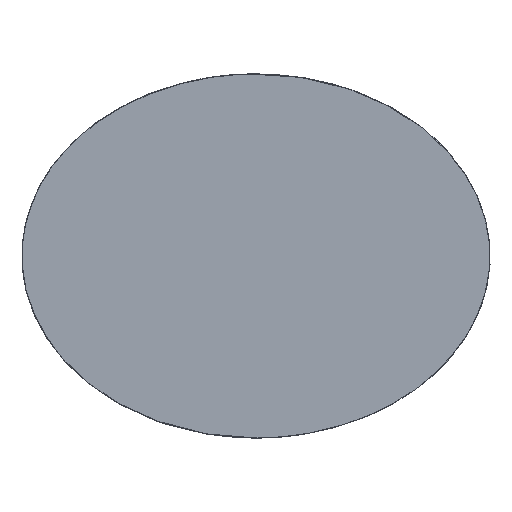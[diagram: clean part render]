
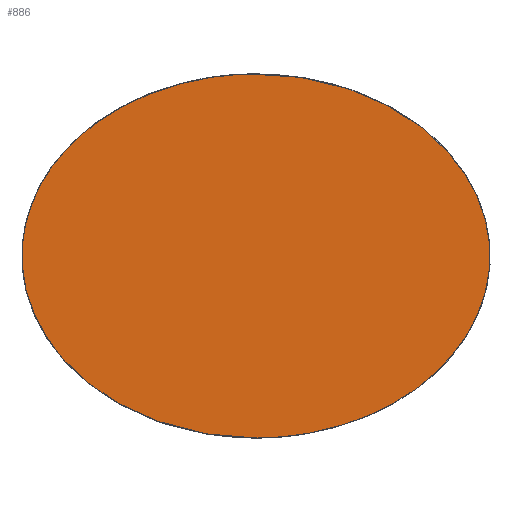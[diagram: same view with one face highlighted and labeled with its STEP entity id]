
A CAD part, top view. The second image highlights one B-rep face of the part: STEP entity #886.
In plain terms, the highlighted planar face has unit normal (0, 0, 1).
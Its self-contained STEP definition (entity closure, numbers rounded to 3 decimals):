
#460=B_SPLINE_CURVE_WITH_KNOTS('',3,(#15017,#15018,#15019,#15020,#15021,
#15022,#15023,#15024,#15025,#15026,#15027,#15028,#15029,#15030,#15031,#15032,
#15033,#15034,#15035,#15036,#15037,#15038,#15039,#15040,#15041,#15042,#15043,
#15044,#15045,#15046,#15047,#15048,#15049,#15050,#15051,#15052,#15053,#15054),
 .UNSPECIFIED.,.F.,.F.,(4,1,1,1,1,1,1,1,1,1,1,1,1,1,1,1,1,1,1,1,1,1,1,1,
1,1,1,1,1,1,1,1,1,1,1,4),(0.,15.624,106.727,216.917,
326.825,431.286,526.279,594.416,660.832,
730.051,792.153,867.122,931.923,991.158,
1038.235,1094.982,1147.777,1188.006,1233.734,
1279.66,1312.746,1370.729,1416.936,1473.062,
1533.536,1609.008,1674.048,1750.42,1832.557,
1920.74,2014.864,2096.825,2192.829,2287.212,
2397.218,2499.96),.UNSPECIFIED.);
#475=B_SPLINE_CURVE_WITH_KNOTS('',3,(#15346,#15347,#15348,#15349,#15350,
#15351,#15352,#15353,#15354,#15355,#15356,#15357,#15358,#15359,#15360,#15361,
#15362,#15363,#15364,#15365,#15366,#15367,#15368,#15369,#15370,#15371,#15372,
#15373,#15374,#15375,#15376,#15377,#15378,#15379,#15380,#15381,#15382),
 .UNSPECIFIED.,.F.,.F.,(4,1,1,1,1,1,1,1,1,1,1,1,1,1,1,1,1,1,1,1,1,1,1,1,
1,1,1,1,1,1,1,1,1,1,4),(2499.96,2593.681,2687.886,
2796.783,2902.131,3019.431,3104.581,3193.719,
3276.859,3362.651,3430.427,3477.361,3525.144,
3586.652,3650.055,3716.541,3764.06,3800.465,
3846.375,3896.007,3957.928,4015.637,4077.814,
4144.909,4217.355,4295.492,4387.172,4477.815,
4574.119,4671.293,4774.464,4883.682,4957.496,
5024.213,5039.921),.UNSPECIFIED.);
#886=ADVANCED_FACE('',(#1175),#4686,.T.);
#1175=FACE_OUTER_BOUND('',#1473,.T.);
#1473=EDGE_LOOP('',(#2981,#2982));
#2981=ORIENTED_EDGE('',*,*,#3781,.F.);
#2982=ORIENTED_EDGE('',*,*,#3766,.F.);
#3766=EDGE_CURVE('',#4572,#4583,#460,.T.);
#3781=EDGE_CURVE('',#4583,#4572,#475,.T.);
#4572=VERTEX_POINT('',#14887);
#4583=VERTEX_POINT('',#14898);
#4686=PLANE('',#4983);
#4983=AXIS2_PLACEMENT_3D('',#14127,#5134,$);
#5134=DIRECTION('',(0.,0.,1.));
#14127=CARTESIAN_POINT('',(-18.041,1414.045,727.));
#14887=CARTESIAN_POINT('',(900.,1.,727.));
#14898=CARTESIAN_POINT('',(880.001,1398.827,727.));
#15017=CARTESIAN_POINT('',(900.,1.,727.));
#15018=CARTESIAN_POINT('',(894.792,1.,727.));
#15019=CARTESIAN_POINT('',(859.217,1.24,727.));
#15020=CARTESIAN_POINT('',(786.956,5.066,727.));
#15021=CARTESIAN_POINT('',(684.125,19.615,727.));
#15022=CARTESIAN_POINT('',(578.88,45.25,727.));
#15023=CARTESIAN_POINT('',(481.506,79.586,727.));
#15024=CARTESIAN_POINT('',(400.621,117.436,727.));
#15025=CARTESIAN_POINT('',(334.321,155.738,727.));
#15026=CARTESIAN_POINT('',(278.18,194.058,727.));
#15027=CARTESIAN_POINT('',(226.845,235.495,727.));
#15028=CARTESIAN_POINT('',(177.052,282.999,727.));
#15029=CARTESIAN_POINT('',(132.767,333.784,727.));
#15030=CARTESIAN_POINT('',(94.375,387.976,727.));
#15031=CARTESIAN_POINT('',(65.944,437.495,727.));
#15032=CARTESIAN_POINT('',(43.014,486.819,727.));
#15033=CARTESIAN_POINT('',(25.194,535.955,727.));
#15034=CARTESIAN_POINT('',(12.723,584.354,727.));
#15035=CARTESIAN_POINT('',(4.956,629.979,727.));
#15036=CARTESIAN_POINT('',(0.987,673.799,727.));
#15037=CARTESIAN_POINT('',(0.736,715.415,727.));
#15038=CARTESIAN_POINT('',(3.777,761.,727.));
#15039=CARTESIAN_POINT('',(10.625,806.308,727.));
#15040=CARTESIAN_POINT('',(23.53,858.211,727.));
#15041=CARTESIAN_POINT('',(41.316,909.55,727.));
#15042=CARTESIAN_POINT('',(68.166,967.762,727.));
#15043=CARTESIAN_POINT('',(102.77,1025.264,727.));
#15044=CARTESIAN_POINT('',(146.423,1082.992,727.));
#15045=CARTESIAN_POINT('',(197.137,1137.728,727.));
#15046=CARTESIAN_POINT('',(259.056,1192.004,727.));
#15047=CARTESIAN_POINT('',(331.065,1243.046,727.));
#15048=CARTESIAN_POINT('',(407.846,1286.456,727.));
#15049=CARTESIAN_POINT('',(490.619,1323.717,727.));
#15050=CARTESIAN_POINT('',(576.435,1353.627,727.));
#15051=CARTESIAN_POINT('',(673.632,1378.076,727.));
#15052=CARTESIAN_POINT('',(774.908,1393.858,727.));
#15053=CARTESIAN_POINT('',(845.759,1398.235,727.));
#15054=CARTESIAN_POINT('',(880.001,1398.827,727.));
#15346=CARTESIAN_POINT('',(880.001,1398.827,727.));
#15347=CARTESIAN_POINT('',(911.237,1399.368,727.));
#15348=CARTESIAN_POINT('',(973.913,1397.913,727.));
#15349=CARTESIAN_POINT('',(1072.395,1387.563,727.));
#15350=CARTESIAN_POINT('',(1173.398,1367.692,727.));
#15351=CARTESIAN_POINT('',(1279.358,1335.828,727.));
#15352=CARTESIAN_POINT('',(1374.057,1295.894,727.));
#15353=CARTESIAN_POINT('',(1459.264,1248.916,727.));
#15354=CARTESIAN_POINT('',(1530.162,1200.38,727.));
#15355=CARTESIAN_POINT('',(1595.864,1144.674,727.));
#15356=CARTESIAN_POINT('',(1650.213,1087.293,727.));
#15357=CARTESIAN_POINT('',(1690.721,1034.029,727.));
#15358=CARTESIAN_POINT('',(1719.692,988.222,727.));
#15359=CARTESIAN_POINT('',(1744.198,942.23,727.));
#15360=CARTESIAN_POINT('',(1766.648,889.141,727.));
#15361=CARTESIAN_POINT('',(1785.097,827.965,727.));
#15362=CARTESIAN_POINT('',(1795.535,769.648,727.));
#15363=CARTESIAN_POINT('',(1799.191,719.597,727.));
#15364=CARTESIAN_POINT('',(1799.006,676.295,727.));
#15365=CARTESIAN_POINT('',(1795.488,632.414,727.));
#15366=CARTESIAN_POINT('',(1786.746,580.606,727.));
#15367=CARTESIAN_POINT('',(1771.825,526.106,727.));
#15368=CARTESIAN_POINT('',(1749.831,469.558,727.));
#15369=CARTESIAN_POINT('',(1721.533,413.935,727.));
#15370=CARTESIAN_POINT('',(1685.052,357.347,727.));
#15371=CARTESIAN_POINT('',(1639.594,300.668,727.));
#15372=CARTESIAN_POINT('',(1582.731,243.173,727.));
#15373=CARTESIAN_POINT('',(1515.249,188.332,727.));
#15374=CARTESIAN_POINT('',(1437.232,137.718,727.));
#15375=CARTESIAN_POINT('',(1352.859,94.435,727.));
#15376=CARTESIAN_POINT('',(1260.783,58.075,727.));
#15377=CARTESIAN_POINT('',(1161.515,29.472,727.));
#15378=CARTESIAN_POINT('',(1067.613,12.,727.));
#15379=CARTESIAN_POINT('',(984.766,3.396,727.));
#15380=CARTESIAN_POINT('',(932.711,1.187,727.));
#15381=CARTESIAN_POINT('',(905.236,1.,727.));
#15382=CARTESIAN_POINT('',(900.,1.,727.));
